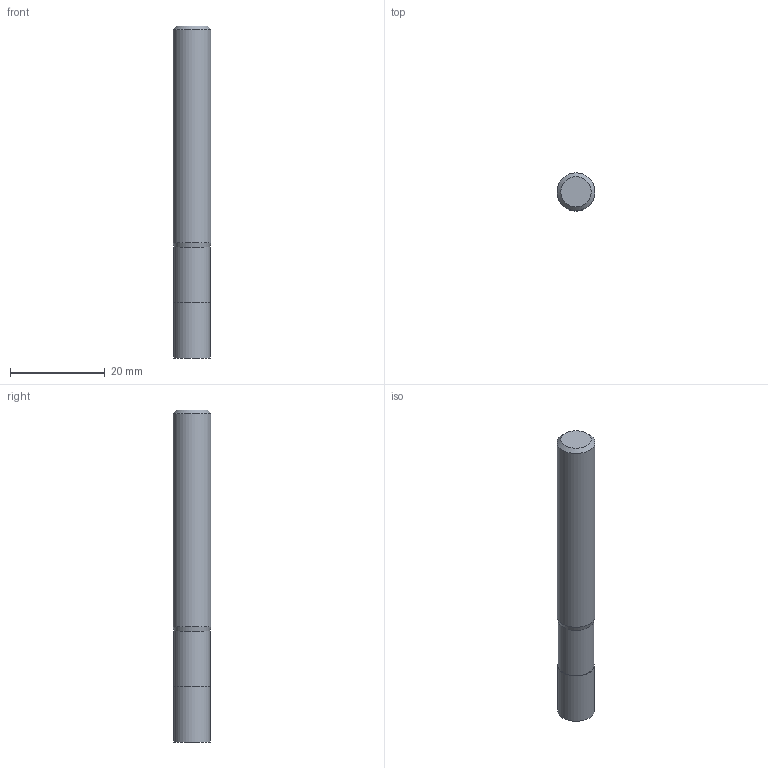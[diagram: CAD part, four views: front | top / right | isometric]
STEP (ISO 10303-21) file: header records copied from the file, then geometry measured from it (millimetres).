
FILE_DESCRIPTION((''),'2;1');
FILE_NAME('C:\Users\nsx150\AppData\Local\Temp\Mastercam 2021\EUJSUNXURU\TEMP.step','2021-04-22T10:29:18',(''),(''),'STEP Write','Mastercam 2021 ... CNC Software, Inc.','');
FILE_SCHEMA(('AUTOMOTIVE_DESIGN'));
Length unit declared in the file: millimetre
Products named in the file (1): None
Bounding box: 8 x 8 x 70 mm (x, y, z)
Volume: 3422.4 mm3; surface area: 1915.7 mm2
Topology: 2 solids, 2 shells, 9 faces, 12 edges, 7 vertices
Faces by surface type: plane 4, cylinder 3, cone 2
Full cylindrical faces by diameter (mm): 7.6 x1, 7.8 x1, 8 x1
Entity records: 211 total; most frequent: DIRECTION 36, CARTESIAN_POINT 25, AXIS2_PLACEMENT_3D 18, ORIENTED_EDGE 14, EDGE_LOOP 14, STYLED_ITEM 12, ADVANCED_FACE 9, FACE_BOUND 8
